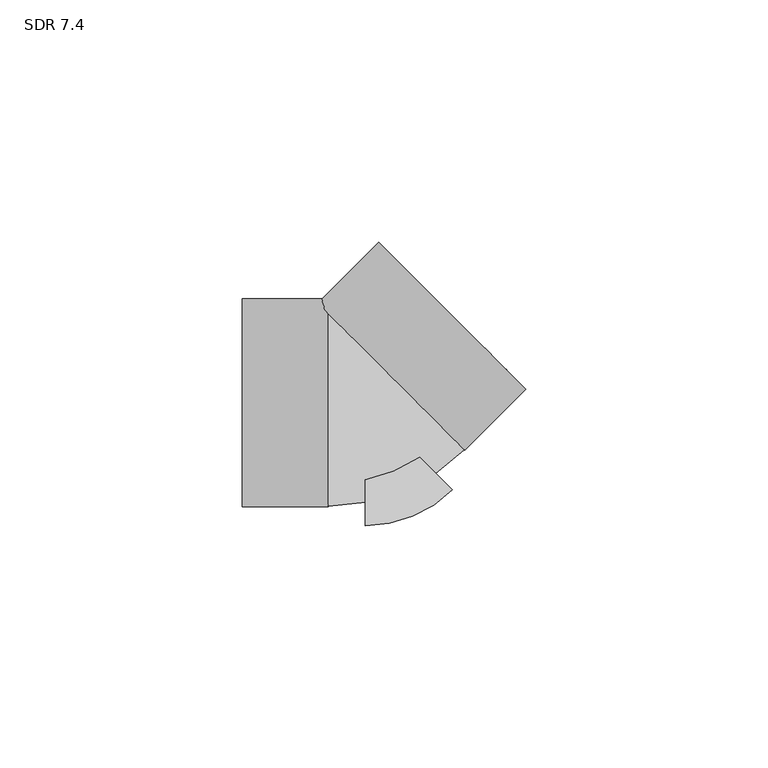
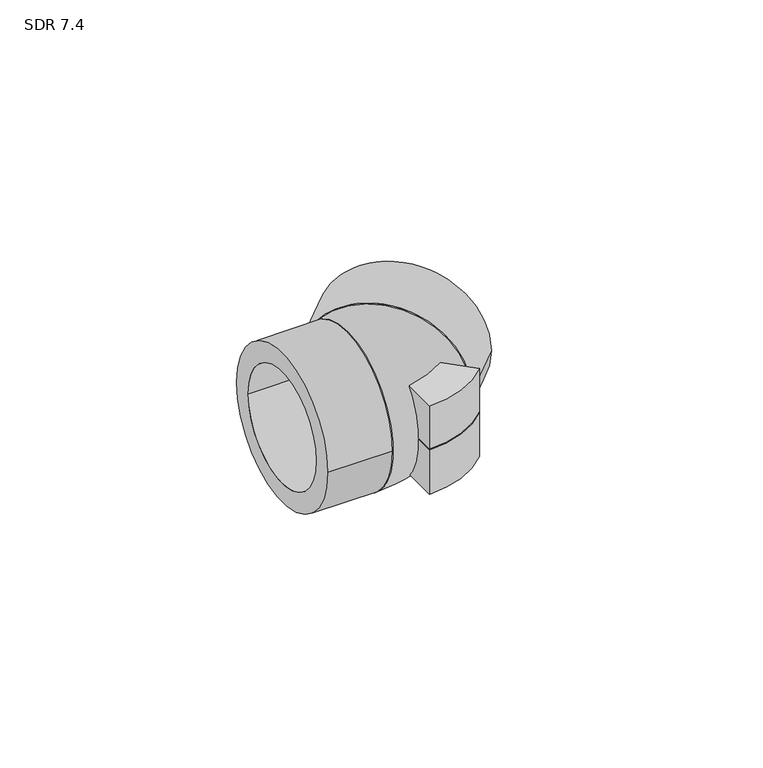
"""IFC4 building model written with IfcOpenShell, lengths in millimetres: pipe fitting geometry, Aquatherm - Elbow Socket : SDR 7.4."""

from ifc_helpers import new_model, si_unit, point, frame, origin, origin_with_axes, origin_2d, place, context, project, spatial, polyline, circle_curve, ellipse_curve, trimmed, segment, composite_curve, outline, extrude, source, transform, mapped, element, save
from ifc_brep_helpers import plane_surface, revolved_surface, advanced_brep


def sdr_7_4_1d889893(model_context):
    return source(origin(), model_context, "Body", "SolidModel", [
        extrude(outline(composite_curve([segment(polyline([(0.0, -25.4), (0.0, 0.0), (17.9605122, -17.9605122)]), True, "CONTINUOUS"), segment(trimmed(circle_curve(origin_2d(), 25.4), [point((17.9605122, -17.9605122))], [point((0.0, -25.4))], False, "CARTESIAN"), True, "CONTINUOUS")], self_intersect=False)), frame((0.0, 0.0, -12.7), z_axis=(0.0, 0.0, 1.0), x_axis=(1.0, 0.0, 0.0)), (0.0, 0.0, 1.0), 12.7),
        extrude(outline(composite_curve([segment(trimmed(circle_curve(origin_2d(), 25.4), [point((17.9605122, -17.9605122))], [point((0.0, -25.4))], False, "CARTESIAN"), True, "CONTINUOUS"), segment(polyline([(0.0, -25.4), (0.0, 0.0), (17.9605122, -17.9605122)]), True, "CONTINUOUS")], self_intersect=False)), origin_with_axes(), (0.0, 0.0, 1.0), 12.7),
        extrude(outline(composite_curve([segment(trimmed(circle_curve(origin_2d(), 21.463), [point((0.0, 21.463))], [point((0.0, -21.463))], False, "CARTESIAN"), True, "CONTINUOUS"), segment(trimmed(circle_curve(origin_2d(), 21.463), [point((0.0, -21.463))], [point((0.0, 21.463))], False, "CARTESIAN"), True, "CONTINUOUS")], self_intersect=False), holes=[composite_curve([segment(trimmed(circle_curve(origin_2d(), 16.002), [point((0.0, 16.002))], [point((0.0, -16.002))], True, "CARTESIAN"), True, "CONTINUOUS"), segment(trimmed(circle_curve(origin_2d(), 16.002), [point((0.0, -16.002))], [point((0.0, 16.002))], True, "CARTESIAN"), True, "CONTINUOUS")], self_intersect=False)]), frame((5.3881537, 5.3881537, 0.0), z_axis=(0.7071067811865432, 0.7071067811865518, 0.0), x_axis=(0.0, 0.0, 1.0)), (0.0, 0.0, 1.0), 17.78),
        advanced_brep(
        [(-7.62, 18.3963073, -11.0560502), (-7.62, 18.3963073, 11.0560502), (-7.62, -11.557, 0.0), (-7.62, 11.557, 0.0), (13.5601867, -2.7838794, 0.0), (-2.7838794, 13.5601867, 0.0)],
        [
            (0, 1, circle_curve(frame((-7.62, 0.0, 0.0), z_axis=(-1.0, 0.0, 0.0), x_axis=(0.0, 1.0, 0.0)), 21.463)),
            (1, 0),
            (2, 3, circle_curve(frame((-7.62, 0.0, 0.0), z_axis=(1.0, 0.0, 0.0), x_axis=(0.0, 1.0, 0.0)), 11.557)),
            (3, 2, circle_curve(frame((-7.62, 0.0, 0.0), z_axis=(1.0, 0.0, 0.0), x_axis=(0.0, 1.0, 0.0)), 11.557)),
            (1, 0, circle_curve(frame((5.3881537, 5.3881537, 0.0), z_axis=(0.7071067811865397, 0.7071067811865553, 0.0), x_axis=(-0.7071067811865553, 0.7071067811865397, 0.0)), 21.463)),
            (4, 5, circle_curve(frame((5.3881537, 5.3881537, 0.0), z_axis=(-0.7071067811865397, -0.7071067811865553, 0.0), x_axis=(-0.7071067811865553, 0.7071067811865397, 0.0)), 11.557)),
            (5, 4, circle_curve(frame((5.3881537, 5.3881537, 0.0), z_axis=(-0.7071067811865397, -0.7071067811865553, 0.0), x_axis=(-0.7071067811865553, 0.7071067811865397, 0.0)), 11.557)),
            (5, 3, circle_curve(frame((-7.62, 18.3963073, 0.0), z_axis=(0.0, 0.0, -1.0), x_axis=(0.0, -1.0, 0.0)), 6.8393073)),
            (2, 4, circle_curve(frame((-7.62, 18.3963073, 0.0), z_axis=(0.0, 0.0, 1.0), x_axis=(0.0, -1.0, 0.0)), 29.9533073)),
        ],
        [
            plane_surface(frame((-7.62, 18.3963073, 68.2060502), z_axis=(-1.0, 0.0, 0.0), x_axis=(0.0, -1.0, 0.0))),
            plane_surface(frame((-7.62, 18.3963073, 68.2060502), z_axis=(0.7071067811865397, 0.7071067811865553, 0.0), x_axis=(0.7071067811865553, -0.7071067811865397, 0.0))),
            revolved_surface(trimmed(ellipse_curve(frame((-7.62, 0.0, 0.0), z_axis=(1.0, 0.0, 0.0), x_axis=(0.0, 1.0, 0.0)), 21.463, 21.463), [point((-7.62, 18.3963073, 11.0560502))], [point((-7.62, 18.3963073, -11.0560502))], True, "CARTESIAN"), (-7.62, 18.3963073, 68.2060502), (0.0, 0.0, -1.0)),
            revolved_surface(trimmed(ellipse_curve(frame((-7.62, 0.0, 0.0), z_axis=(-1.0, 0.0, 0.0), x_axis=(0.0, 1.0, 0.0)), 11.557, 11.557), [point((-7.62, 11.557, 0.0))], [point((-7.62, -11.557, 0.0))], True, "CARTESIAN"), (-7.62, 18.3963073, 68.2060502), (0.0, 0.0, -1.0)),
            revolved_surface(trimmed(ellipse_curve(frame((-7.62, 0.0, 0.0), z_axis=(-1.0, 0.0, 0.0), x_axis=(0.0, 1.0, 0.0)), 11.557, 11.557), [point((-7.62, -11.557, 0.0))], [point((-7.62, 11.557, 0.0))], True, "CARTESIAN"), (-7.62, 18.3963073, 68.2060502), (0.0, 0.0, -1.0)),
        ],
        [
            (0, [[1, 2], [3, 4]]),
            (1, [[5, -2], [6, 7]]),
            (2, [[-1, -5]]),
            (3, [[8, -3, 9, -7]]),
            (4, [[-9, -4, -8, -6]]),
        ],
    ),
        extrude(outline(composite_curve([segment(trimmed(circle_curve(origin_2d(), 21.463), [point((21.463, 0.0))], [point((-21.463, 0.0))], False, "CARTESIAN"), True, "CONTINUOUS"), segment(trimmed(circle_curve(origin_2d(), 21.463), [point((-21.463, 0.0))], [point((21.463, 0.0))], False, "CARTESIAN"), True, "CONTINUOUS")], self_intersect=False), holes=[composite_curve([segment(trimmed(circle_curve(origin_2d(), 16.002), [point((16.002, 0.0))], [point((-16.002, 0.0))], True, "CARTESIAN"), True, "CONTINUOUS"), segment(trimmed(circle_curve(origin_2d(), 16.002), [point((-16.002, 0.0))], [point((16.002, 0.0))], True, "CARTESIAN"), True, "CONTINUOUS")], self_intersect=False)]), frame((-25.4, 0.0, 0.0), z_axis=(1.0, 0.0, 0.0), x_axis=(0.0, 1.0, 0.0)), (0.0, 0.0, 1.0), 17.78),
    ])


if __name__ == "__main__":
    model = new_model("IFC4")
    model_context = context("Model", 3, world=origin())
    ifc_project = project(units=[si_unit("LENGTHUNIT", "METRE", prefix="MILLI")], contexts=[model_context])
    site = spatial("IfcSite", under=ifc_project)
    building = spatial("IfcBuilding", under=site)
    placement = place(None, origin())
    sdr_7_4_shape = sdr_7_4_1d889893(model_context)
    element("IfcPipeFitting", 1, ObjectType="Aquatherm - Elbow Socket : SDR 7.4", at=placement, inside=building, context=model_context, shape_type="MappedRepresentation", body=[
        mapped(sdr_7_4_shape, transform((0.0, 0.0, 0.0), x_axis=(1.0, 0.0, 0.0), y_axis=(0.0, 1.0, 0.0), z_axis=(0.0, 0.0, 1.0))),
    ])
    save(model, "model.ifc")
